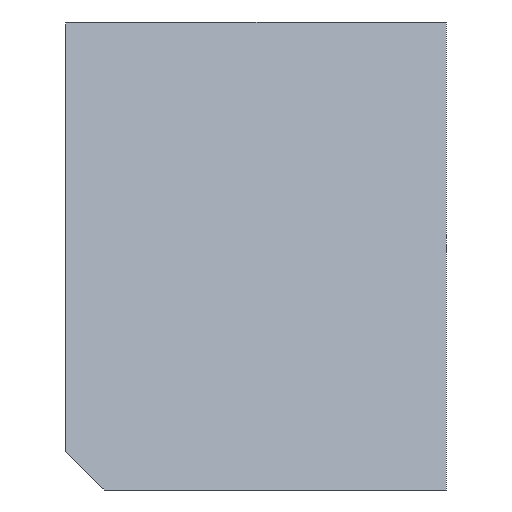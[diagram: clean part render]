
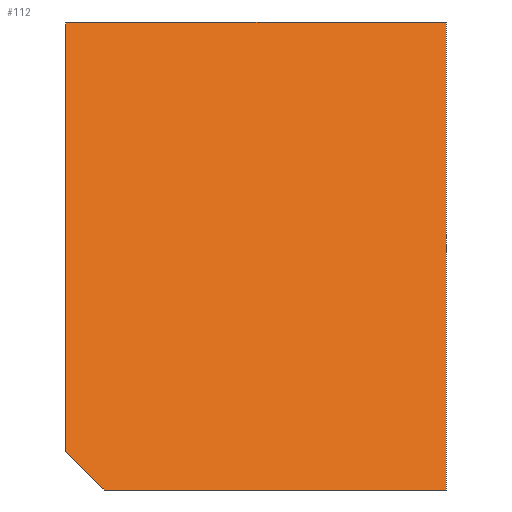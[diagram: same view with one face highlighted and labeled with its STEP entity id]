
A CAD part, left-side view. The second image highlights one B-rep face of the part: STEP entity #112.
In plain terms, the highlighted planar face has unit normal (-0.943, 0, 0.334).
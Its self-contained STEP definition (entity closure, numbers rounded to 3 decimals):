
#112=ADVANCED_FACE('',(#277),#278,.F.);
#277=FACE_OUTER_BOUND('',#511,.T.);
#278=PLANE('',#512);
#511=EDGE_LOOP('',(#967,#968,#969,#970,#971));
#512=AXIS2_PLACEMENT_3D('',#972,#973,#974);
#967=ORIENTED_EDGE('',*,*,#1506,.T.);
#968=ORIENTED_EDGE('',*,*,#1529,.T.);
#969=ORIENTED_EDGE('',*,*,#1482,.F.);
#970=ORIENTED_EDGE('',*,*,#1530,.F.);
#971=ORIENTED_EDGE('',*,*,#1531,.T.);
#972=CARTESIAN_POINT('',(-1928.988,24.0,12.0));
#973=DIRECTION('',(0.942,0.0,-0.334));
#974=DIRECTION('',(0.0,-1.0,0.0));
#1482=EDGE_CURVE('',#1837,#1838,#1839,.T.);
#1506=EDGE_CURVE('',#1868,#1866,#1869,.T.);
#1529=EDGE_CURVE('',#1866,#1838,#1893,.T.);
#1530=EDGE_CURVE('',#1894,#1837,#1895,.T.);
#1531=EDGE_CURVE('',#1894,#1868,#1896,.T.);
#1837=VERTEX_POINT('',#2270);
#1838=VERTEX_POINT('',#2271);
#1839=LINE('',#2272,#2273);
#1866=VERTEX_POINT('',#2304);
#1868=VERTEX_POINT('',#2307);
#1869=LINE('',#2308,#2309);
#1893=LINE('',#2337,#2338);
#1894=VERTEX_POINT('',#2339);
#1895=LINE('',#2340,#2341);
#1896=LINE('',#2342,#2343);
#2270=CARTESIAN_POINT('',(-1928.988,24.0,12.0));
#2271=CARTESIAN_POINT('',(-1928.988,4.5,12.0));
#2272=CARTESIAN_POINT('',(-1928.988,24.0,12.0));
#2273=VECTOR('',#2650,1000.0);
#2304=CARTESIAN_POINT('',(-1937.5,4.5,-12.));
#2307=CARTESIAN_POINT('',(-1937.5,22.0,-12.));
#2308=CARTESIAN_POINT('',(-1937.5,24.0,-12.));
#2309=VECTOR('',#2710,1000.0);
#2337=CARTESIAN_POINT('',(-1928.988,4.5,12.0));
#2338=VECTOR('',#2769,1000.0);
#2339=CARTESIAN_POINT('',(-1936.791,24.0,-10.));
#2340=CARTESIAN_POINT('',(-1928.988,24.0,12.0));
#2341=VECTOR('',#2770,1000.0);
#2342=CARTESIAN_POINT('',(-1817.979,358.988,324.988));
#2343=VECTOR('',#2771,1000.0);
#2650=DIRECTION('',(-0.0,-1.0,-0.0));
#2710=DIRECTION('',(-0.0,-1.0,-0.0));
#2769=DIRECTION('',(0.334,0.,0.942));
#2770=DIRECTION('',(0.334,-0.0,0.942));
#2771=DIRECTION('',(-0.243,-0.686,-0.686));
